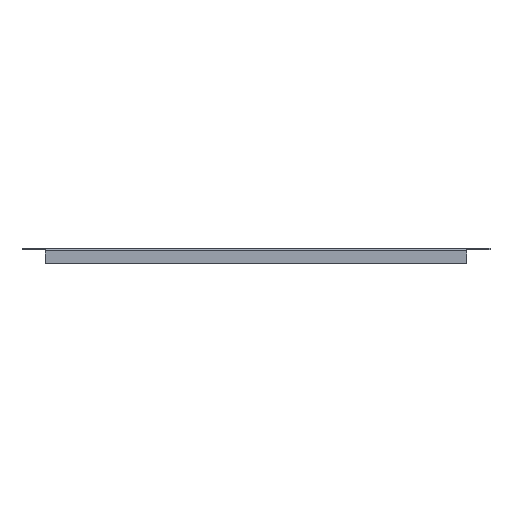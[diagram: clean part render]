
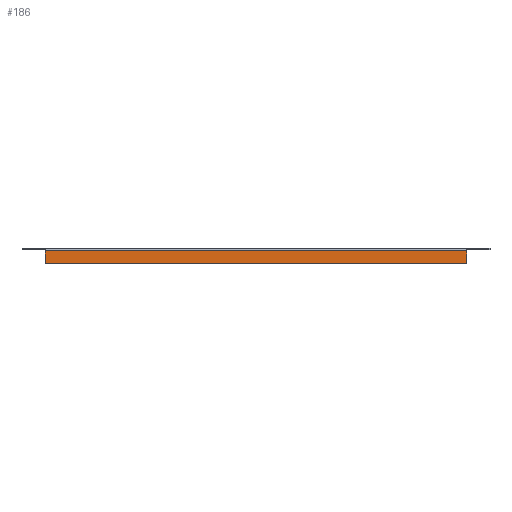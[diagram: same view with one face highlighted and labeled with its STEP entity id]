
A CAD part, front view. The second image highlights one B-rep face of the part: STEP entity #186.
In plain terms, the highlighted planar face has unit normal (0, -1, 0).
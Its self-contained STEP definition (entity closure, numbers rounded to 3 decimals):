
#31 = EDGE_CURVE ( 'NONE', #517, #516, #415, .T. ) ;
#53 = EDGE_CURVE ( 'NONE', #522, #517, #951, .T. ) ;
#176 = EDGE_CURVE ( 'NONE', #516, #519, #1171, .T. ) ;
#184 = EDGE_CURVE ( 'NONE', #519, #522, #1195, .T. ) ;
#186 = ADVANCED_FACE ( 'NONE', ( #1005 ), #1194, .F. ) ;
#195 = VECTOR ( 'NONE', #1173, 1000. ) ;
#223 = VECTOR ( 'NONE', #413, 1000. ) ;
#315 = VECTOR ( 'NONE', #961, 1000. ) ;
#413 = DIRECTION ( 'NONE',  ( -1., 0., 0. ) ) ;
#414 = CARTESIAN_POINT ( 'NONE',  ( 209.5, -149.5, -13.8 ) ) ;
#415 = LINE ( 'NONE', #414, #223 ) ;
#516 = VERTEX_POINT ( 'NONE', #1224 ) ;
#517 = VERTEX_POINT ( 'NONE', #1225 ) ;
#519 = VERTEX_POINT ( 'NONE', #1227 ) ;
#522 = VERTEX_POINT ( 'NONE', #1229 ) ;
#620 = ORIENTED_EDGE ( 'NONE', *, *, #53, .F. ) ;
#631 = ORIENTED_EDGE ( 'NONE', *, *, #31, .F. ) ;
#718 = ORIENTED_EDGE ( 'NONE', *, *, #184, .F. ) ;
#725 = ORIENTED_EDGE ( 'NONE', *, *, #176, .F. ) ;
#836 = EDGE_LOOP ( 'NONE', ( #718, #725, #631, #620 ) ) ;
#951 = LINE ( 'NONE', #952, #315 ) ;
#952 = CARTESIAN_POINT ( 'NONE',  ( 209.5, -149.5, 0. ) ) ;
#961 = DIRECTION ( 'NONE',  ( 0., 0., -1. ) ) ;
#1001 = AXIS2_PLACEMENT_3D ( 'NONE', #1201, #1202, #1203 ) ;
#1005 = FACE_OUTER_BOUND ( 'NONE', #836, .T. ) ;
#1006 = VECTOR ( 'NONE', #1197, 1000. ) ;
#1171 = LINE ( 'NONE', #1172, #195 ) ;
#1172 = CARTESIAN_POINT ( 'NONE',  ( -209.5, -149.5, -13.8 ) ) ;
#1173 = DIRECTION ( 'NONE',  ( 0., 0., 1. ) ) ;
#1194 = PLANE ( 'NONE',  #1001 ) ;
#1195 = LINE ( 'NONE', #1196, #1006 ) ;
#1196 = CARTESIAN_POINT ( 'NONE',  ( 209.5, -149.5, -1.2 ) ) ;
#1197 = DIRECTION ( 'NONE',  ( 1., 0., 0. ) ) ;
#1201 = CARTESIAN_POINT ( 'NONE',  ( 209.5, -149.5, 0. ) ) ;
#1202 = DIRECTION ( 'NONE',  ( 0., 1., 0. ) ) ;
#1203 = DIRECTION ( 'NONE',  ( 0., 0., 1. ) ) ;
#1224 = CARTESIAN_POINT ( 'NONE',  ( -209.5, -149.5, -13.8 ) ) ;
#1225 = CARTESIAN_POINT ( 'NONE',  ( 209.5, -149.5, -13.8 ) ) ;
#1227 = CARTESIAN_POINT ( 'NONE',  ( -209.5, -149.5, -1.2 ) ) ;
#1229 = CARTESIAN_POINT ( 'NONE',  ( 209.5, -149.5, -1.2 ) ) ;
